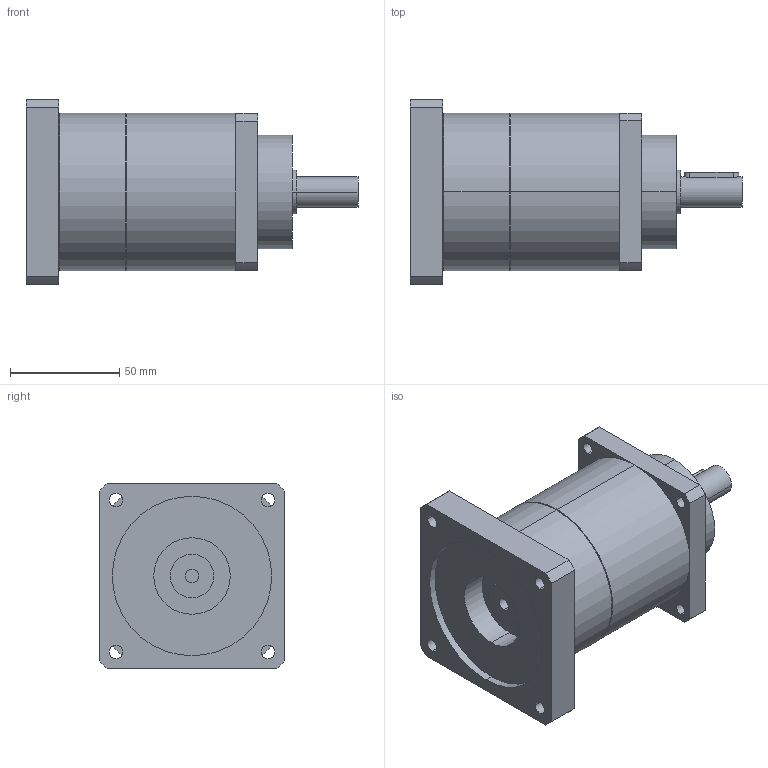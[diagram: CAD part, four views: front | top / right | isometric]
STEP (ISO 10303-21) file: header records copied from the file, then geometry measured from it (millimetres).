
FILE_DESCRIPTION(('CoCreate Modeling STEP Export'),'2;1');
FILE_NAME('GPT75_ig-9-12-16-20-25-28-35-40-50-70-100_14_B5T_6_P36.stp','2014-08-27T13:40:34',(''),(''),'CoCreate Modeling STEP processor for AP214 (Solid Model)','CoCreate Modeling 16.00C 25-Feb-2009 (C) Parametric Technology GmbH','');
FILE_SCHEMA(('AUTOMOTIVE_DESIGN { 1 0 10303 214 1 1 1 1 }'));
Length unit declared in the file: millimetre
Products named in the file (2): GPT75_ig-9-12-16-20-25-28-35-40-50-70-100_14_B5T_6_P36
Assembly tree (1 placements, depth 2):
  GPT75_ig-9-12-16-20-25-28-35-40-50-70-100_14_B5T_6_P36
    GPT75_ig-9-12-16-20-25-28-35-40-50-70-100_14_B5T_6_P36
Bounding box: 152 x 85 x 85 mm (x, y, z)
Volume: 500066.6 mm3; surface area: 51562.8 mm2
Topology: 1 solids, 1 shells, 77 faces, 194 edges, 129 vertices
Faces by surface type: cylinder 46, plane 27, cone 4
Entity records: 2484 total; most frequent: CARTESIAN_POINT 719, ORIENTED_EDGE 388, DIRECTION 320, EDGE_CURVE 194, VERTEX_POINT 129, AXIS2_PLACEMENT_3D 118, EDGE_LOOP 103, VECTOR 84
